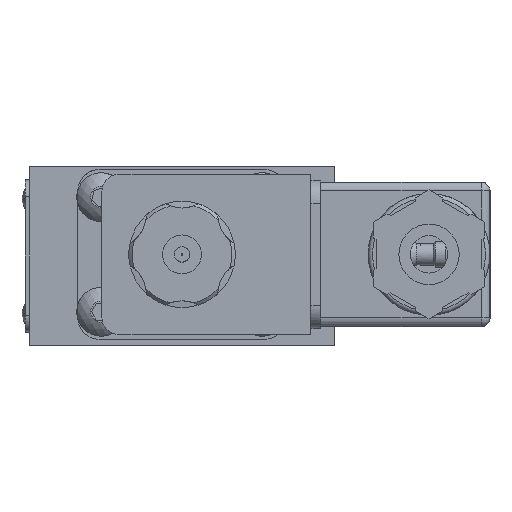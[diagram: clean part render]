
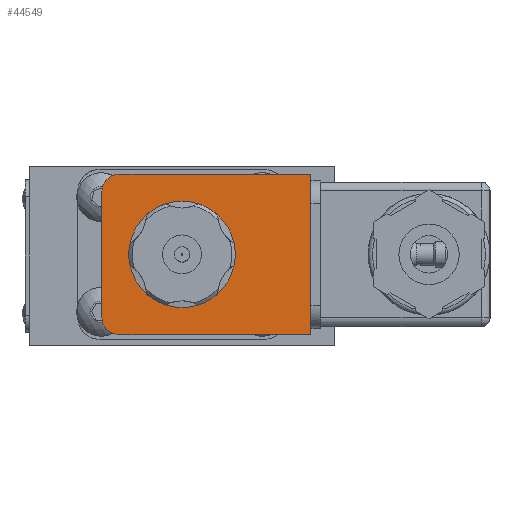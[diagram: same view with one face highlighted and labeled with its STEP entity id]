
A CAD part, left-side view. The second image highlights one B-rep face of the part: STEP entity #44549.
In plain terms, the highlighted planar face has unit normal (-1, 0, 0).
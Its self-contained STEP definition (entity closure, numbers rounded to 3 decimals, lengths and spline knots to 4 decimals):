
#1539=FACE_BOUND('',#7445,.T.);
#2462=PLANE('',#48943);
#4699=FACE_OUTER_BOUND('',#7444,.T.);
#7444=EDGE_LOOP('',(#36664,#36665,#36666,#36667,#36668,#36669));
#7445=EDGE_LOOP('',(#36670));
#8259=CIRCLE('',#45473,0.9957);
#9985=CIRCLE('',#48944,0.3175);
#9986=CIRCLE('',#48945,0.3175);
#12790=LINE('',#78681,#16057);
#12791=LINE('',#78685,#16058);
#12792=LINE('',#78687,#16059);
#12793=LINE('',#78688,#16060);
#16057=VECTOR('',#59780,1.);
#16058=VECTOR('',#59783,1.);
#16059=VECTOR('',#59784,1.);
#16060=VECTOR('',#59785,1.);
#17141=VERTEX_POINT('',#65092);
#20016=VERTEX_POINT('',#78677);
#20017=VERTEX_POINT('',#78678);
#20018=VERTEX_POINT('',#78680);
#20019=VERTEX_POINT('',#78682);
#20020=VERTEX_POINT('',#78684);
#20021=VERTEX_POINT('',#78686);
#21231=EDGE_CURVE('',#17141,#17141,#8259,.T.);
#25722=EDGE_CURVE('',#20016,#20017,#9985,.T.);
#25723=EDGE_CURVE('',#20018,#20016,#12790,.T.);
#25724=EDGE_CURVE('',#20019,#20018,#9986,.T.);
#25725=EDGE_CURVE('',#20019,#20020,#12791,.T.);
#25726=EDGE_CURVE('',#20020,#20021,#12792,.T.);
#25727=EDGE_CURVE('',#20017,#20021,#12793,.T.);
#36664=ORIENTED_EDGE('',*,*,#25722,.F.);
#36665=ORIENTED_EDGE('',*,*,#25723,.F.);
#36666=ORIENTED_EDGE('',*,*,#25724,.F.);
#36667=ORIENTED_EDGE('',*,*,#25725,.T.);
#36668=ORIENTED_EDGE('',*,*,#25726,.T.);
#36669=ORIENTED_EDGE('',*,*,#25727,.F.);
#36670=ORIENTED_EDGE('',*,*,#21231,.T.);
#44549=ADVANCED_FACE('',(#4699,#1539),#2462,.T.);
#45473=AXIS2_PLACEMENT_3D('',#65093,#50504,#50505);
#48943=AXIS2_PLACEMENT_3D('',#78676,#59776,#59777);
#48944=AXIS2_PLACEMENT_3D('',#78679,#59778,#59779);
#48945=AXIS2_PLACEMENT_3D('',#78683,#59781,#59782);
#50504=DIRECTION('center_axis',(1.,0.,0.));
#50505=DIRECTION('ref_axis',(0.,1.,0.));
#59776=DIRECTION('center_axis',(-1.,0.,0.));
#59777=DIRECTION('ref_axis',(0.,-1.,0.));
#59778=DIRECTION('center_axis',(1.,0.,0.));
#59779=DIRECTION('ref_axis',(0.,0.707,0.707));
#59780=DIRECTION('',(0.,0.,1.));
#59781=DIRECTION('center_axis',(1.,0.,0.));
#59782=DIRECTION('ref_axis',(0.,0.707,-0.707));
#59783=DIRECTION('',(0.,-1.,0.));
#59784=DIRECTION('',(0.,0.,1.));
#59785=DIRECTION('',(0.,-1.,0.));
#65092=CARTESIAN_POINT('',(-9.8649,-0.9994,0.0299));
#65093=CARTESIAN_POINT('Origin',(-9.8649,-0.0037,0.0299));
#78676=CARTESIAN_POINT('Origin',(-9.8649,1.4949,-1.4701));
#78677=CARTESIAN_POINT('',(-9.8649,1.4949,1.2124));
#78678=CARTESIAN_POINT('',(-9.8649,1.1774,1.5299));
#78679=CARTESIAN_POINT('Origin',(-9.8649,1.1774,1.2124));
#78680=CARTESIAN_POINT('',(-9.8649,1.4949,-1.1526));
#78681=CARTESIAN_POINT('',(-9.8649,1.4949,-1.4701));
#78682=CARTESIAN_POINT('',(-9.8649,1.1774,-1.4701));
#78683=CARTESIAN_POINT('Origin',(-9.8649,1.1774,-1.1526));
#78684=CARTESIAN_POINT('',(-9.8649,-2.4167,-1.4701));
#78685=CARTESIAN_POINT('',(-9.8649,1.4949,-1.4701));
#78686=CARTESIAN_POINT('',(-9.8649,-2.4167,1.5299));
#78687=CARTESIAN_POINT('',(-9.8649,-2.4167,-1.4701));
#78688=CARTESIAN_POINT('',(-9.8649,1.4949,1.5299));
